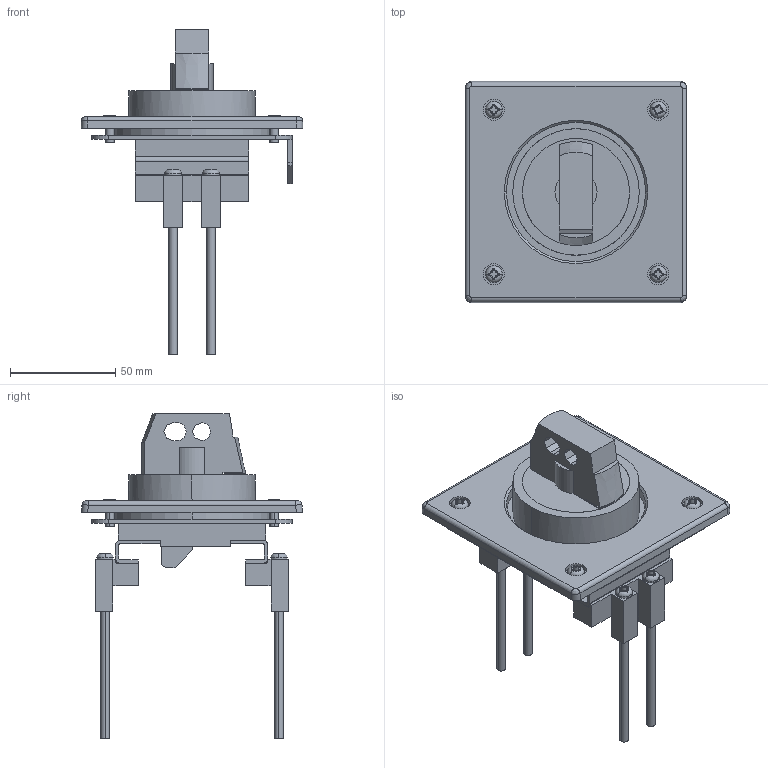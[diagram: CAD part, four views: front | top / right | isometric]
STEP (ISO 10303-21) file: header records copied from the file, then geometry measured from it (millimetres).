
FILE_DESCRIPTION (( 'STEP AP214' ), '1' );
FILE_NAME ('BW9N0BA.STEP', '2014-04-09T04:45:03', ( '川崎工場' ), ( '富士電機システムズ株式会社' ), 'SwSTEP 2.0', 'SolidWorks 2005204', '' );
FILE_SCHEMA (( 'AUTOMOTIVE_DESIGN' ));
Length unit declared in the file: millimetre
Products named in the file (9): BW9N0BA_Handle_蹬怮椔; Screw_M4_L85_蹬怮椔; BW9N0BA_Handle_Operation_Mechanism_蹬怮椔; Screw_M4_L10_蹬怮椔; BW9N0BA_Front_plate_蹬怮椔; BW9N0BA_Dust_proof_packing_蹬怮椔; BW9N0BA_Catch_plate_蹬怮椔; BW9N0BA; BW9N0BA_Screw_Asm_蹬怮椔
Assembly tree (14 placements, depth 3):
  BW9N0BA
    Screw_M4_L85_蹬怮椔  x4
    BW9N0BA_Handle_Operation_Mechanism_蹬怮椔
    BW9N0BA_Front_plate_蹬怮椔
    BW9N0BA_Catch_plate_蹬怮椔
    BW9N0BA_Dust_proof_packing_蹬怮椔
    BW9N0BA_Handle_蹬怮椔
    BW9N0BA_Screw_Asm_蹬怮椔
      Screw_M4_L10_蹬怮椔  x4
Bounding box: 105 x 105 x 153.9 mm (x, y, z)
Volume: 211546.9 mm3; surface area: 90578.9 mm2
Topology: 17 solids, 17 shells, 448 faces, 1167 edges, 766 vertices
Faces by surface type: plane 280, cylinder 128, cone 18, torus 16, bspline 6
Entity records: 11417 total; most frequent: CARTESIAN_POINT 4232, DIRECTION 1432, ORIENTED_EDGE 1422, EDGE_CURVE 711, AXIS2_PLACEMENT_3D 492, VERTEX_POINT 466, LINE 448, VECTOR 448
